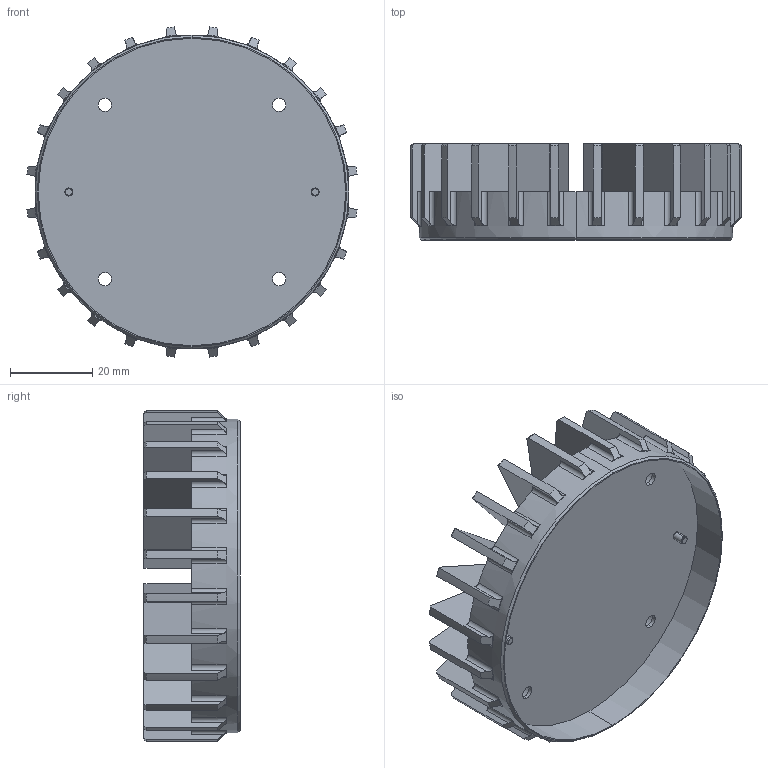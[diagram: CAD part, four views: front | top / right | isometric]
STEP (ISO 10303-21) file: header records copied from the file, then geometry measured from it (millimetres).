
FILE_DESCRIPTION (( 'STEP AP214' ), '1' );
FILE_NAME ('320-102246-5-TopCapAddOnRadialFins.STEP', '2019-11-14T21:02:40', ( '' ), ( '' ), 'SwSTEP 2.0', 'SolidWorks 2018', '' );
FILE_SCHEMA (( 'AUTOMOTIVE_DESIGN' ));
Length unit declared in the file: millimetre
Products named in the file (1): 320-102246-5-TopCapAddOnRadialFins
Bounding box: 80.38 x 23.4 x 80.38 mm (x, y, z)
Volume: 27733.9 mm3; surface area: 28415.2 mm2
Topology: 1 solids, 1 shells, 327 faces, 948 edges, 630 vertices
Faces by surface type: cylinder 168, plane 105, cone 54
Entity records: 11162 total; most frequent: CARTESIAN_POINT 2160, DIRECTION 1982, ORIENTED_EDGE 1896, EDGE_CURVE 948, AXIS2_PLACEMENT_3D 760, VERTEX_POINT 630, LINE 462, VECTOR 462
